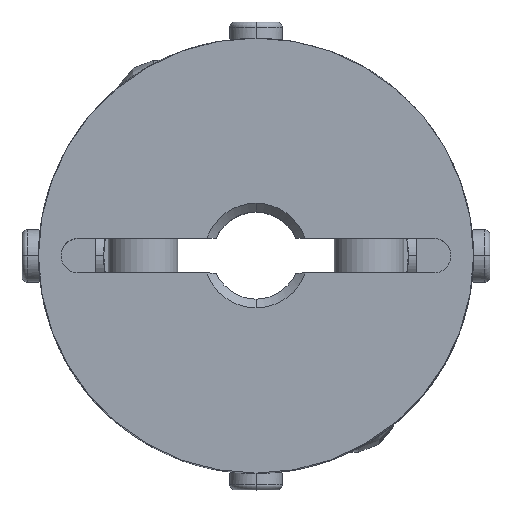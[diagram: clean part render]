
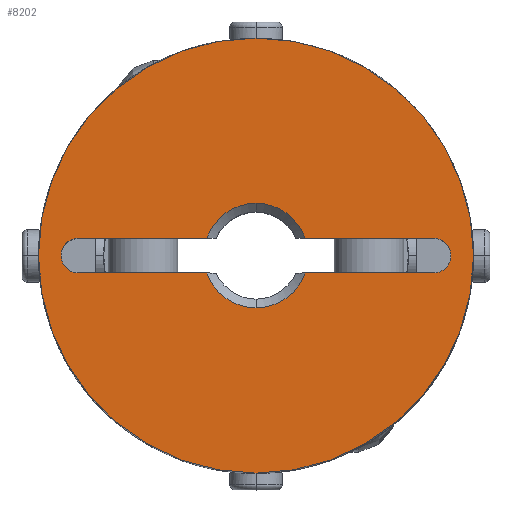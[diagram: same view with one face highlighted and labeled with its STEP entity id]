
A CAD part, top view. The second image highlights one B-rep face of the part: STEP entity #8202.
In plain terms, the highlighted planar face has unit normal (0, 0, 1).
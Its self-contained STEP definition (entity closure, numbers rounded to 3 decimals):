
#885=CARTESIAN_POINT('',(0.,12.5,13.5));
#886=VERTEX_POINT('',#885);
#893=CARTESIAN_POINT('',(0.,-12.5,13.5));
#894=VERTEX_POINT('',#893);
#895=CARTESIAN_POINT('',(0.,0.0,13.5));
#896=DIRECTION('',(0.0,0.0,-1.0));
#897=DIRECTION('',(0.0,-1.0,0.0));
#898=AXIS2_PLACEMENT_3D('',#895,#896,#897);
#899=CIRCLE('',#898,12.5);
#900=EDGE_CURVE('',#886,#894,#899,.T.);
#1153=CARTESIAN_POINT('',(10.907,0.707,13.5));
#1154=VERTEX_POINT('',#1153);
#1170=CARTESIAN_POINT('',(10.2,-1.,13.5));
#1171=VERTEX_POINT('',#1170);
#1178=CARTESIAN_POINT('',(10.2,0.,13.5));
#1179=DIRECTION('',(0.0,0.0,1.0));
#1180=DIRECTION('',(0.707,-0.707,0.0));
#1181=AXIS2_PLACEMENT_3D('',#1178,#1179,#1180);
#1182=CIRCLE('',#1181,1.0);
#1183=EDGE_CURVE('',#1171,#1154,#1182,.T.);
#1195=CARTESIAN_POINT('',(-10.907,-0.707,13.5));
#1196=VERTEX_POINT('',#1195);
#1212=CARTESIAN_POINT('',(-10.2,1.,13.5));
#1213=VERTEX_POINT('',#1212);
#1220=CARTESIAN_POINT('',(-10.2,0.,13.5));
#1221=DIRECTION('',(0.0,0.0,1.0));
#1222=DIRECTION('',(-0.707,0.707,0.0));
#1223=AXIS2_PLACEMENT_3D('',#1220,#1221,#1222);
#1224=CIRCLE('',#1223,1.0);
#1225=EDGE_CURVE('',#1213,#1196,#1224,.T.);
#1235=CARTESIAN_POINT('',(0.,3.0,13.5));
#1236=VERTEX_POINT('',#1235);
#1244=CARTESIAN_POINT('',(2.828,1.,13.5));
#1245=VERTEX_POINT('',#1244);
#1259=CARTESIAN_POINT('',(0.,0.0,13.5));
#1260=DIRECTION('',(0.0,0.0,1.0));
#1261=DIRECTION('',(0.0,1.0,0.0));
#1262=AXIS2_PLACEMENT_3D('',#1259,#1260,#1261);
#1263=CIRCLE('',#1262,3.0);
#1264=EDGE_CURVE('',#1245,#1236,#1263,.T.);
#1276=CARTESIAN_POINT('',(0.,-3.0,13.5));
#1277=VERTEX_POINT('',#1276);
#1293=CARTESIAN_POINT('',(-2.828,-1.,13.5));
#1294=VERTEX_POINT('',#1293);
#1308=CARTESIAN_POINT('',(0.,0.0,13.5));
#1309=DIRECTION('',(0.0,0.0,1.0));
#1310=DIRECTION('',(0.0,-1.0,0.0));
#1311=AXIS2_PLACEMENT_3D('',#1308,#1309,#1310);
#1312=CIRCLE('',#1311,3.0);
#1313=EDGE_CURVE('',#1294,#1277,#1312,.T.);
#7994=CARTESIAN_POINT('',(-10.2,-1.,13.5));
#7995=VERTEX_POINT('',#7994);
#8002=CARTESIAN_POINT('',(-2.828,-1.,13.5));
#8003=DIRECTION('',(-1.0,0.0,0.0));
#8004=VECTOR('',#8003,7.372);
#8005=LINE('',#8002,#8004);
#8006=EDGE_CURVE('',#1294,#7995,#8005,.T.);
#8063=CARTESIAN_POINT('',(-2.828,1.,13.5));
#8064=VERTEX_POINT('',#8063);
#8078=CARTESIAN_POINT('',(-10.2,1.,13.5));
#8079=DIRECTION('',(1.0,0.0,0.0));
#8080=VECTOR('',#8079,7.372);
#8081=LINE('',#8078,#8080);
#8082=EDGE_CURVE('',#1213,#8064,#8081,.T.);
#8099=CARTESIAN_POINT('',(2.828,-1.,13.5));
#8100=VERTEX_POINT('',#8099);
#8101=CARTESIAN_POINT('',(0.,0.0,13.5));
#8102=DIRECTION('',(0.0,0.0,1.0));
#8103=DIRECTION('',(0.0,-1.0,0.0));
#8104=AXIS2_PLACEMENT_3D('',#8101,#8102,#8103);
#8105=CIRCLE('',#8104,3.0);
#8106=EDGE_CURVE('',#1277,#8100,#8105,.T.);
#8133=CARTESIAN_POINT('',(10.2,-1.,13.5));
#8134=DIRECTION('',(-1.0,0.0,0.0));
#8135=VECTOR('',#8134,7.372);
#8136=LINE('',#8133,#8135);
#8137=EDGE_CURVE('',#1171,#8100,#8136,.T.);
#8148=CARTESIAN_POINT('',(0.,-1.136,13.5));
#8149=DIRECTION('',(0.0,0.0,1.0));
#8150=DIRECTION('',(0.0,-1.0,0.0));
#8151=AXIS2_PLACEMENT_3D('',#8148,#8149,#8150);
#8152=PLANE('',#8151);
#8153=CARTESIAN_POINT('',(0.,0.0,13.5));
#8154=DIRECTION('',(0.0,0.0,-1.0));
#8155=DIRECTION('',(0.0,-1.0,0.0));
#8156=AXIS2_PLACEMENT_3D('',#8153,#8154,#8155);
#8157=CIRCLE('',#8156,12.5);
#8158=EDGE_CURVE('',#894,#886,#8157,.T.);
#8159=ORIENTED_EDGE('',*,*,#8158,.F.);
#8160=ORIENTED_EDGE('',*,*,#900,.F.);
#8161=EDGE_LOOP('',(#8159,#8160));
#8162=FACE_OUTER_BOUND('',#8161,.T.);
#8163=ORIENTED_EDGE('',*,*,#1313,.F.);
#8164=ORIENTED_EDGE('',*,*,#8006,.T.);
#8165=CARTESIAN_POINT('',(-10.2,0.,13.5));
#8166=DIRECTION('',(0.0,0.0,1.0));
#8167=DIRECTION('',(-0.707,0.707,0.0));
#8168=AXIS2_PLACEMENT_3D('',#8165,#8166,#8167);
#8169=CIRCLE('',#8168,1.0);
#8170=EDGE_CURVE('',#1196,#7995,#8169,.T.);
#8171=ORIENTED_EDGE('',*,*,#8170,.F.);
#8172=ORIENTED_EDGE('',*,*,#1225,.F.);
#8173=ORIENTED_EDGE('',*,*,#8082,.T.);
#8174=CARTESIAN_POINT('',(0.,0.0,13.5));
#8175=DIRECTION('',(0.0,0.0,1.0));
#8176=DIRECTION('',(0.0,1.0,0.0));
#8177=AXIS2_PLACEMENT_3D('',#8174,#8175,#8176);
#8178=CIRCLE('',#8177,3.0);
#8179=EDGE_CURVE('',#1236,#8064,#8178,.T.);
#8180=ORIENTED_EDGE('',*,*,#8179,.F.);
#8181=ORIENTED_EDGE('',*,*,#1264,.F.);
#8182=CARTESIAN_POINT('',(10.2,1.,13.5));
#8183=VERTEX_POINT('',#8182);
#8184=CARTESIAN_POINT('',(2.828,1.,13.5));
#8185=DIRECTION('',(1.0,0.0,0.0));
#8186=VECTOR('',#8185,7.372);
#8187=LINE('',#8184,#8186);
#8188=EDGE_CURVE('',#1245,#8183,#8187,.T.);
#8189=ORIENTED_EDGE('',*,*,#8188,.T.);
#8190=CARTESIAN_POINT('',(10.2,0.,13.5));
#8191=DIRECTION('',(0.0,0.0,1.0));
#8192=DIRECTION('',(0.707,-0.707,0.0));
#8193=AXIS2_PLACEMENT_3D('',#8190,#8191,#8192);
#8194=CIRCLE('',#8193,1.0);
#8195=EDGE_CURVE('',#1154,#8183,#8194,.T.);
#8196=ORIENTED_EDGE('',*,*,#8195,.F.);
#8197=ORIENTED_EDGE('',*,*,#1183,.F.);
#8198=ORIENTED_EDGE('',*,*,#8137,.T.);
#8199=ORIENTED_EDGE('',*,*,#8106,.F.);
#8200=EDGE_LOOP('',(#8163,#8164,#8171,#8172,#8173,#8180,#8181,#8189,#8196,#8197,#8198,#8199));
#8201=FACE_BOUND('',#8200,.T.);
#8202=ADVANCED_FACE('',(#8162,#8201),#8152,.T.);
